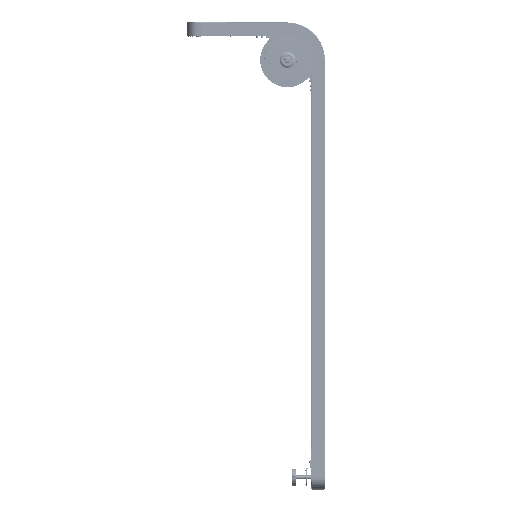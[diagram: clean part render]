
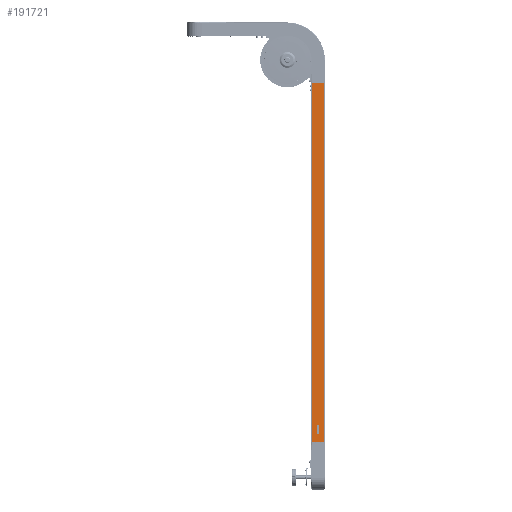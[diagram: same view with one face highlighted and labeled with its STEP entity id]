
A CAD part, top view. The second image highlights one B-rep face of the part: STEP entity #191721.
In plain terms, the highlighted planar face has unit normal (0, 0, 1) as drawn and (0, 1, 0) by its records, which use the part's own axes.
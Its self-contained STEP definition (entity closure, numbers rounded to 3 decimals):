
#16951 = CARTESIAN_POINT ( 'NONE',  ( 11.228, 4.8, 69.036 ) ) ;
#17635 = VERTEX_POINT ( 'NONE', #16951 ) ;
#21562 = EDGE_LOOP ( 'NONE', ( #283834, #346223, #192022, #251866 ) ) ;
#22844 = ORIENTED_EDGE ( 'NONE', *, *, #359895, .F. ) ;
#24709 = CARTESIAN_POINT ( 'NONE',  ( 41.25, 4.8, 2350. ) ) ;
#27372 = CARTESIAN_POINT ( 'NONE',  ( 0., 4.8, 50. ) ) ;
#28683 = VERTEX_POINT ( 'NONE', #399608 ) ;
#29186 = EDGE_LOOP ( 'NONE', ( #289600, #269903, #75669, #180982, #198780, #418682, #82332, #22844 ) ) ;
#30278 = DIRECTION ( 'NONE',  ( 0.778, 0., -0.628 ) ) ;
#31641 = LINE ( 'NONE', #366680, #424442 ) ;
#32482 = CARTESIAN_POINT ( 'NONE',  ( -7.785, 4.8, 114.776 ) ) ;
#34153 = PLANE ( 'NONE',  #238372 ) ;
#41845 = DIRECTION ( 'NONE',  ( 0.778, 0., 0.628 ) ) ;
#47852 = VERTEX_POINT ( 'NONE', #106370 ) ;
#49021 = VERTEX_POINT ( 'NONE', #286061 ) ;
#51418 = DIRECTION ( 'NONE',  ( 1., 0., 0. ) ) ;
#58418 = CARTESIAN_POINT ( 'NONE',  ( 11.228, 4.8, 69.036 ) ) ;
#59700 = EDGE_CURVE ( 'NONE', #49021, #47852, #420618, .T. ) ;
#72869 = CARTESIAN_POINT ( 'NONE',  ( 7.785, 4.8, 114.776 ) ) ;
#74954 = DIRECTION ( 'NONE',  ( 0., 0., -1. ) ) ;
#75669 = ORIENTED_EDGE ( 'NONE', *, *, #89982, .F. ) ;
#82332 = ORIENTED_EDGE ( 'NONE', *, *, #416686, .F. ) ;
#89982 = EDGE_CURVE ( 'NONE', #47852, #376240, #31641, .T. ) ;
#90054 = CARTESIAN_POINT ( 'NONE',  ( 4.785, 4.8, 69.036 ) ) ;
#96805 = LINE ( 'NONE', #32482, #199645 ) ;
#102866 = FACE_BOUND ( 'NONE', #29186, .T. ) ;
#104736 = VERTEX_POINT ( 'NONE', #90054 ) ;
#106370 = CARTESIAN_POINT ( 'NONE',  ( -11.228, 4.8, 69.036 ) ) ;
#113041 = VECTOR ( 'NONE', #41845, 1000. ) ;
#116702 = VERTEX_POINT ( 'NONE', #423220 ) ;
#121116 = VERTEX_POINT ( 'NONE', #271658 ) ;
#125075 = DIRECTION ( 'NONE',  ( -0.508, 0., -0.861 ) ) ;
#132472 = EDGE_CURVE ( 'NONE', #376240, #116702, #257415, .T. ) ;
#155731 = CARTESIAN_POINT ( 'NONE',  ( -4.785, 4.8, 69.036 ) ) ;
#164927 = LINE ( 'NONE', #200403, #337777 ) ;
#167009 = DIRECTION ( 'NONE',  ( 1., 0., 0. ) ) ;
#167194 = LINE ( 'NONE', #304664, #372549 ) ;
#180982 = ORIENTED_EDGE ( 'NONE', *, *, #59700, .F. ) ;
#183730 = LINE ( 'NONE', #72869, #401247 ) ;
#190882 = DIRECTION ( 'NONE',  ( -0.065, 0., 0.998 ) ) ;
#191721 = ADVANCED_FACE ( 'NONE', ( #102866, #338139 ), #34153, .T. ) ;
#192022 = ORIENTED_EDGE ( 'NONE', *, *, #437530, .F. ) ;
#198780 = ORIENTED_EDGE ( 'NONE', *, *, #210038, .F. ) ;
#199645 = VECTOR ( 'NONE', #30278, 1000. ) ;
#200403 = CARTESIAN_POINT ( 'NONE',  ( 41.25, 4.8, 2350. ) ) ;
#201187 = EDGE_CURVE ( 'NONE', #436537, #326271, #164927, .T. ) ;
#208296 = DIRECTION ( 'NONE',  ( -0.065, 0., -0.998 ) ) ;
#210038 = EDGE_CURVE ( 'NONE', #17635, #49021, #433291, .T. ) ;
#210061 = DIRECTION ( 'NONE',  ( -0.508, 0., 0.861 ) ) ;
#224123 = CARTESIAN_POINT ( 'NONE',  ( -7.785, 4.8, 114.776 ) ) ;
#228573 = VERTEX_POINT ( 'NONE', #336200 ) ;
#232452 = VECTOR ( 'NONE', #210061, 1000. ) ;
#233093 = VECTOR ( 'NONE', #51418, 1000. ) ;
#237142 = VECTOR ( 'NONE', #74954, 1000. ) ;
#238262 = DIRECTION ( 'NONE',  ( 0., 1., 0. ) ) ;
#238372 = AXIS2_PLACEMENT_3D ( 'NONE', #411198, #238262, #437856 ) ;
#243603 = LINE ( 'NONE', #378957, #237142 ) ;
#246467 = CARTESIAN_POINT ( 'NONE',  ( 7.785, 4.8, 114.776 ) ) ;
#247425 = LINE ( 'NONE', #303761, #113041 ) ;
#247770 = EDGE_CURVE ( 'NONE', #116702, #121116, #96805, .T. ) ;
#248413 = VECTOR ( 'NONE', #125075, 1000. ) ;
#251866 = ORIENTED_EDGE ( 'NONE', *, *, #287889, .T. ) ;
#255192 = VECTOR ( 'NONE', #190882, 1000. ) ;
#255984 = DIRECTION ( 'NONE',  ( 1., 0., 0. ) ) ;
#257415 = LINE ( 'NONE', #224123, #255192 ) ;
#257708 = LINE ( 'NONE', #24709, #233093 ) ;
#264591 = EDGE_CURVE ( 'NONE', #28683, #326271, #167194, .T. ) ;
#269903 = ORIENTED_EDGE ( 'NONE', *, *, #132472, .F. ) ;
#271658 = CARTESIAN_POINT ( 'NONE',  ( 0., 4.8, 108.492 ) ) ;
#283834 = ORIENTED_EDGE ( 'NONE', *, *, #201187, .T. ) ;
#286061 = CARTESIAN_POINT ( 'NONE',  ( 0., 4.8, 50. ) ) ;
#287889 = EDGE_CURVE ( 'NONE', #228573, #436537, #257708, .T. ) ;
#289600 = ORIENTED_EDGE ( 'NONE', *, *, #247770, .F. ) ;
#291487 = LINE ( 'NONE', #58418, #352078 ) ;
#301329 = CARTESIAN_POINT ( 'NONE',  ( 41.25, 4.8, 2350. ) ) ;
#303761 = CARTESIAN_POINT ( 'NONE',  ( 7.785, 4.8, 114.776 ) ) ;
#304579 = DIRECTION ( 'NONE',  ( 0., 0., -1. ) ) ;
#304664 = CARTESIAN_POINT ( 'NONE',  ( 41.25, 4.8, 0. ) ) ;
#309844 = CARTESIAN_POINT ( 'NONE',  ( 0., 4.8, 50. ) ) ;
#326271 = VERTEX_POINT ( 'NONE', #332381 ) ;
#332381 = CARTESIAN_POINT ( 'NONE',  ( 41.25, 4.8, 0. ) ) ;
#336200 = CARTESIAN_POINT ( 'NONE',  ( -41.25, 4.8, 2350. ) ) ;
#337777 = VECTOR ( 'NONE', #304579, 1000. ) ;
#337993 = DIRECTION ( 'NONE',  ( 1., 0., 0. ) ) ;
#338139 = FACE_OUTER_BOUND ( 'NONE', #21562, .T. ) ;
#346223 = ORIENTED_EDGE ( 'NONE', *, *, #264591, .F. ) ;
#351501 = VERTEX_POINT ( 'NONE', #246467 ) ;
#352078 = VECTOR ( 'NONE', #255984, 1000. ) ;
#359895 = EDGE_CURVE ( 'NONE', #121116, #351501, #247425, .T. ) ;
#366680 = CARTESIAN_POINT ( 'NONE',  ( -11.228, 4.8, 69.036 ) ) ;
#372549 = VECTOR ( 'NONE', #337993, 1000. ) ;
#376240 = VERTEX_POINT ( 'NONE', #155731 ) ;
#378957 = CARTESIAN_POINT ( 'NONE',  ( -41.25, 4.8, 2350. ) ) ;
#392440 = EDGE_CURVE ( 'NONE', #104736, #17635, #291487, .T. ) ;
#399608 = CARTESIAN_POINT ( 'NONE',  ( -41.25, 4.8, 0. ) ) ;
#401247 = VECTOR ( 'NONE', #208296, 1000. ) ;
#411198 = CARTESIAN_POINT ( 'NONE',  ( 41.25, 4.8, 2350. ) ) ;
#416686 = EDGE_CURVE ( 'NONE', #351501, #104736, #183730, .T. ) ;
#418682 = ORIENTED_EDGE ( 'NONE', *, *, #392440, .F. ) ;
#420618 = LINE ( 'NONE', #309844, #232452 ) ;
#423220 = CARTESIAN_POINT ( 'NONE',  ( -7.785, 4.8, 114.776 ) ) ;
#424442 = VECTOR ( 'NONE', #167009, 1000. ) ;
#433291 = LINE ( 'NONE', #27372, #248413 ) ;
#436537 = VERTEX_POINT ( 'NONE', #301329 ) ;
#437530 = EDGE_CURVE ( 'NONE', #228573, #28683, #243603, .T. ) ;
#437856 = DIRECTION ( 'NONE',  ( 0., 0., 1. ) ) ;
